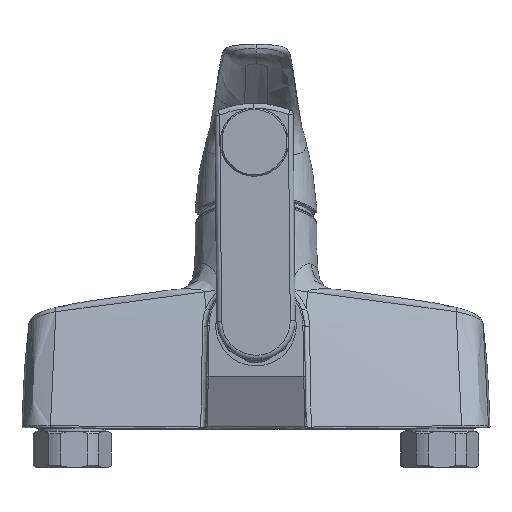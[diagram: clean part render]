
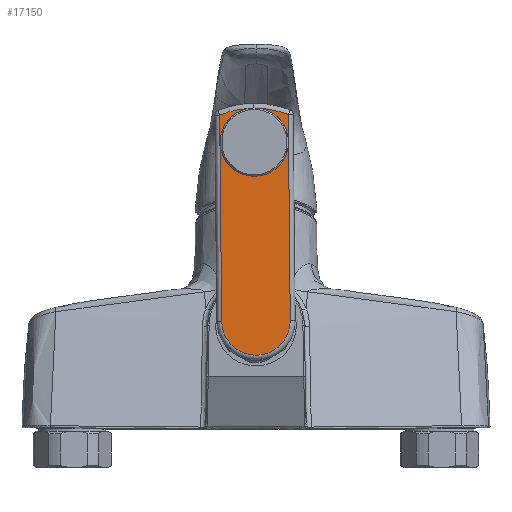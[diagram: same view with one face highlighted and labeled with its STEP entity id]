
A CAD part, front view. The second image highlights one B-rep face of the part: STEP entity #17150.
In plain terms, the highlighted planar face has unit normal (0, -1, 0).
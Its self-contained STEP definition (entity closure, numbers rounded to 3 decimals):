
#426 = DIRECTION ( 'NONE',  ( 0., -1., 0. ) ) ;
#640 = LINE ( 'NONE', #4401, #7179 ) ;
#697 = ORIENTED_EDGE ( 'NONE', *, *, #16272, .T. ) ;
#1476 = ORIENTED_EDGE ( 'NONE', *, *, #19162, .T. ) ;
#2040 = AXIS2_PLACEMENT_3D ( 'NONE', #19609, #426, #9963 ) ;
#2065 = CARTESIAN_POINT ( 'NONE',  ( -14.959, -83.07, 143.944 ) ) ;
#2356 = VERTEX_POINT ( 'NONE', #17937 ) ;
#2768 = VERTEX_POINT ( 'NONE', #20066 ) ;
#2931 = CARTESIAN_POINT ( 'NONE',  ( 13.837, -83.07, 60.083 ) ) ;
#3367 = ORIENTED_EDGE ( 'NONE', *, *, #14157, .T. ) ;
#4040 = VERTEX_POINT ( 'NONE', #9432 ) ;
#4105 = VERTEX_POINT ( 'NONE', #11465 ) ;
#4401 = CARTESIAN_POINT ( 'NONE',  ( 13.025, -83.07, 145.739 ) ) ;
#4514 = VECTOR ( 'NONE', #13544, 1000. ) ;
#4571 = VERTEX_POINT ( 'NONE', #2931 ) ;
#4993 = AXIS2_PLACEMENT_3D ( 'NONE', #12429, #12228, #20482 ) ;
#5284 = PLANE ( 'NONE',  #20102 ) ;
#5754 = EDGE_LOOP ( 'NONE', ( #18242, #18164, #3367, #697, #6174, #1476, #18669 ) ) ;
#6174 = ORIENTED_EDGE ( 'NONE', *, *, #18152, .T. ) ;
#6379 = CIRCLE ( 'NONE', #2040, 13.95 ) ;
#7179 = VECTOR ( 'NONE', #9347, 1000. ) ;
#7450 = CIRCLE ( 'NONE', #14660, 13.95 ) ;
#7527 = AXIS2_PLACEMENT_3D ( 'NONE', #12777, #17648, #20618 ) ;
#8001 = EDGE_CURVE ( 'NONE', #4040, #10573, #14400, .T. ) ;
#8439 = DIRECTION ( 'NONE',  ( 0., -1., 0. ) ) ;
#9152 = CIRCLE ( 'NONE', #4993, 14. ) ;
#9347 = DIRECTION ( 'NONE',  ( -0.009, 0., 1. ) ) ;
#9432 = CARTESIAN_POINT ( 'NONE',  ( -3.392, -83.07, 146.664 ) ) ;
#9801 = DIRECTION ( 'NONE',  ( -0.009, 0., 1. ) ) ;
#9874 = DIRECTION ( 'NONE',  ( 0., -1., 0. ) ) ;
#9892 = CARTESIAN_POINT ( 'NONE',  ( -0.626, -83.07, 108.948 ) ) ;
#9963 = DIRECTION ( 'NONE',  ( 1., 0., 0. ) ) ;
#10573 = VERTEX_POINT ( 'NONE', #2065 ) ;
#11465 = CARTESIAN_POINT ( 'NONE',  ( -14.161, -83.07, 59.817 ) ) ;
#12228 = DIRECTION ( 'NONE',  ( 0., -1., 0. ) ) ;
#12429 = CARTESIAN_POINT ( 'NONE',  ( -0.162, -83.07, 59.95 ) ) ;
#12777 = CARTESIAN_POINT ( 'NONE',  ( -0.626, -83.07, 108.948 ) ) ;
#13195 = CARTESIAN_POINT ( 'NONE',  ( 1.423, -83.07, 146.71 ) ) ;
#13544 = DIRECTION ( 'NONE',  ( 0.009, 0., -1. ) ) ;
#14157 = EDGE_CURVE ( 'NONE', #10573, #4105, #14803, .T. ) ;
#14400 = CIRCLE ( 'NONE', #19497, 37.817 ) ;
#14660 = AXIS2_PLACEMENT_3D ( 'NONE', #16291, #9874, #14818 ) ;
#14803 = LINE ( 'NONE', #16575, #4514 ) ;
#14818 = DIRECTION ( 'NONE',  ( 1., 0., 0. ) ) ;
#15239 = CIRCLE ( 'NONE', #7527, 37.817 ) ;
#16272 = EDGE_CURVE ( 'NONE', #4105, #4571, #9152, .T. ) ;
#16291 = CARTESIAN_POINT ( 'NONE',  ( -0.854, -83.07, 132.947 ) ) ;
#16575 = CARTESIAN_POINT ( 'NONE',  ( -14.161, -83.07, 59.817 ) ) ;
#17095 = EDGE_CURVE ( 'NONE', #2768, #20256, #6379, .T. ) ;
#17150 = ADVANCED_FACE ( 'NONE', ( #18195 ), #5284, .T. ) ;
#17648 = DIRECTION ( 'NONE',  ( 0., -1., 0. ) ) ;
#17831 = DIRECTION ( 'NONE',  ( 0., -1., 0. ) ) ;
#17937 = CARTESIAN_POINT ( 'NONE',  ( 13.04, -83.07, 144.209 ) ) ;
#18152 = EDGE_CURVE ( 'NONE', #4571, #2356, #640, .T. ) ;
#18164 = ORIENTED_EDGE ( 'NONE', *, *, #8001, .T. ) ;
#18195 = FACE_OUTER_BOUND ( 'NONE', #5754, .T. ) ;
#18242 = ORIENTED_EDGE ( 'NONE', *, *, #18406, .F. ) ;
#18406 = EDGE_CURVE ( 'NONE', #4040, #2768, #7450, .T. ) ;
#18669 = ORIENTED_EDGE ( 'NONE', *, *, #17095, .F. ) ;
#19162 = EDGE_CURVE ( 'NONE', #2356, #20256, #15239, .T. ) ;
#19175 = CARTESIAN_POINT ( 'NONE',  ( -0.626, -83.07, 108.948 ) ) ;
#19497 = AXIS2_PLACEMENT_3D ( 'NONE', #19175, #17831, #9801 ) ;
#19609 = CARTESIAN_POINT ( 'NONE',  ( -0.854, -83.07, 132.947 ) ) ;
#19756 = DIRECTION ( 'NONE',  ( -0.009, 0., 1. ) ) ;
#20066 = CARTESIAN_POINT ( 'NONE',  ( -0.722, -83.07, 118.997 ) ) ;
#20102 = AXIS2_PLACEMENT_3D ( 'NONE', #9892, #8439, #19756 ) ;
#20256 = VERTEX_POINT ( 'NONE', #13195 ) ;
#20482 = DIRECTION ( 'NONE',  ( -0.009, 0., 1. ) ) ;
#20618 = DIRECTION ( 'NONE',  ( -0.009, 0., 1. ) ) ;
